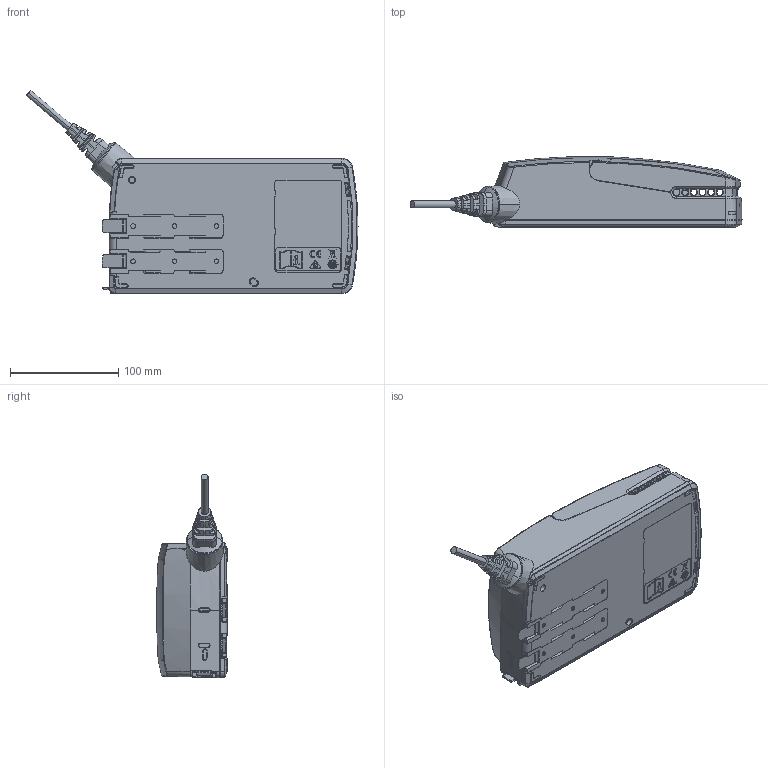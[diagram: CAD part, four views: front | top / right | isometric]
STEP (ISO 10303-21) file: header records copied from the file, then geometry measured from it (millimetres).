
FILE_DESCRIPTION((''),'2;1');
FILE_NAME('CAXX-COXX-BOKS','2018-02-07T14:22:39',('TI'),(''),'CREO PARAMETRIC BY PTC INC, 2017260','CREO PARAMETRIC BY PTC INC, 2017260','');
FILE_SCHEMA(('AUTOMOTIVE_DESIGN { 1 0 10303 214 1 1 1 1 }'));
Products named in the file (1): CAXX-COXX-BOKS
Bounding box: 306.78 x 65.24 x 187.99 mm (x, y, z)
Volume: 1339976 mm3; surface area: 163733.4 mm2
Topology: 1 solids, 4 shells, 4261 faces, 10973 edges, 6745 vertices
Faces by surface type: cylinder 1207, bspline 1092, plane 1039, torus 342, cone 282, extrusion 174, sphere 125
Entity records: 191664 total; most frequent: CARTESIAN_POINT 98293, ORIENTED_EDGE 21838, DIRECTION 16073, EDGE_CURVE 10919, VERTEX_POINT 6745, AXIS2_PLACEMENT_3D 5946, EDGE_LOOP 4384, FACE_OUTER_BOUND 4261
